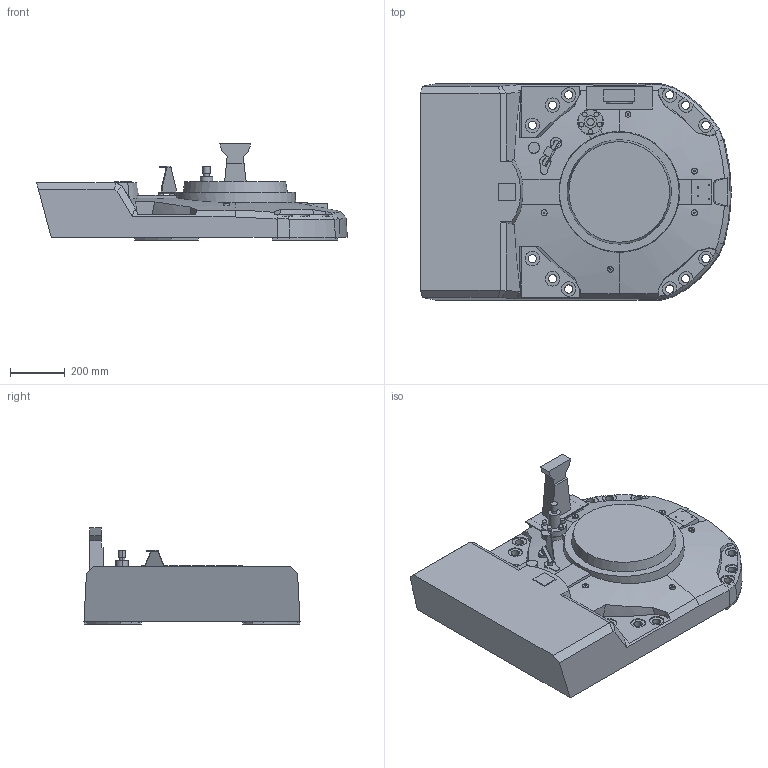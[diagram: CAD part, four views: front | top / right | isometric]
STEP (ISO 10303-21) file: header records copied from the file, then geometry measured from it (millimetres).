
FILE_DESCRIPTION (( 'STEP AP214' ), '1' );
FILE_NAME ('IRB760_445-318_BASE_CAD_rev01.STEP', '2020-01-31T12:29:36', ( '' ), ( '' ), 'SwSTEP 2.0', 'SolidWorks 2018', '' );
FILE_SCHEMA (( 'AUTOMOTIVE_DESIGN' ));
Length unit declared in the file: millimetre
Products named in the file (2): IRB760_445-318_BASE_CAD_rev01
Bounding box: 1136 x 790 x 352 mm (x, y, z)
Volume: 126150897.8 mm3; surface area: 2509735.3 mm2
Topology: 1 solids, 1 shells, 359 faces, 917 edges, 601 vertices
Faces by surface type: plane 183, cylinder 118, cone 40, bspline 18
Entity records: 17418 total; most frequent: CARTESIAN_POINT 4802, ORIENTED_EDGE 1834, DIRECTION 1723, EDGE_CURVE 917, AXIS2_PLACEMENT_3D 640, VERTEX_POINT 601, VECTOR 443, LINE 443
